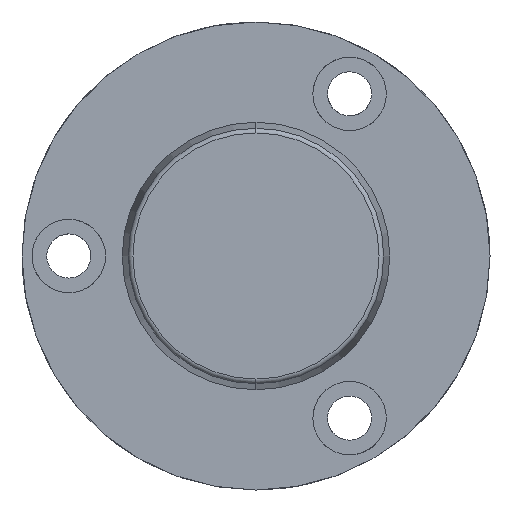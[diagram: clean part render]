
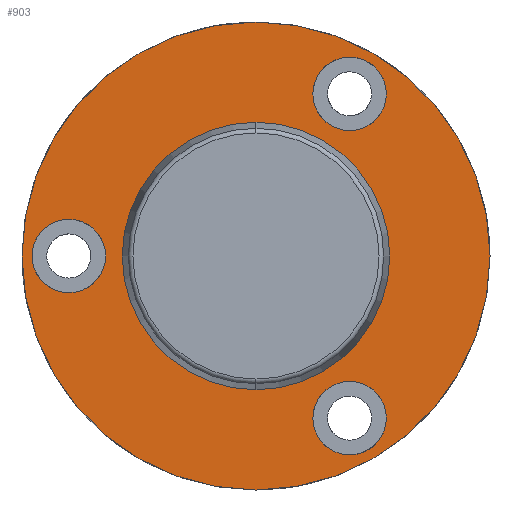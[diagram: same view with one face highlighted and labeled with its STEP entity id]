
A CAD part, left-side view. The second image highlights one B-rep face of the part: STEP entity #903.
In plain terms, the highlighted planar face has unit normal (-1, 0, 0).
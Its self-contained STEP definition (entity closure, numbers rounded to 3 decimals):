
#417=CARTESIAN_POINT('Vertex',(-12.,0.,-35.)) ;
#420=CARTESIAN_POINT('Axis2P3D Location',(-12.,0.,0.)) ;
#424=CARTESIAN_POINT('Vertex',(-12.,35.,0.)) ;
#427=CARTESIAN_POINT('Axis2P3D Location',(-12.,0.,0.)) ;
#431=CARTESIAN_POINT('Vertex',(-12.,0.,35.)) ;
#453=CARTESIAN_POINT('Axis2P3D Location',(-12.,0.,0.)) ;
#457=CARTESIAN_POINT('Vertex',(-12.,-35.,0.)) ;
#460=CARTESIAN_POINT('Axis2P3D Location',(-12.,0.,0.)) ;
#756=CARTESIAN_POINT('Axis2P3D Location',(-12.,18.5,0.)) ;
#767=CARTESIAN_POINT('Axis2P3D Location',(-12.,28.,0.)) ;
#771=CARTESIAN_POINT('Vertex',(-12.,28.,5.5)) ;
#773=CARTESIAN_POINT('Vertex',(-12.,33.5,0.)) ;
#776=CARTESIAN_POINT('Axis2P3D Location',(-12.,28.,0.)) ;
#780=CARTESIAN_POINT('Vertex',(-12.,22.5,0.)) ;
#783=CARTESIAN_POINT('Axis2P3D Location',(-12.,28.,0.)) ;
#787=CARTESIAN_POINT('Vertex',(-12.,28.,-5.5)) ;
#790=CARTESIAN_POINT('Axis2P3D Location',(-12.,28.,0.)) ;
#801=CARTESIAN_POINT('Axis2P3D Location',(-12.,-14.,24.249)) ;
#805=CARTESIAN_POINT('Vertex',(-12.,-8.5,24.249)) ;
#807=CARTESIAN_POINT('Vertex',(-12.,-14.,29.749)) ;
#810=CARTESIAN_POINT('Axis2P3D Location',(-12.,-14.,24.249)) ;
#814=CARTESIAN_POINT('Vertex',(-12.,-19.5,24.249)) ;
#817=CARTESIAN_POINT('Axis2P3D Location',(-12.,-14.,24.249)) ;
#821=CARTESIAN_POINT('Vertex',(-12.,-14.,18.749)) ;
#824=CARTESIAN_POINT('Axis2P3D Location',(-12.,-14.,24.249)) ;
#835=CARTESIAN_POINT('Axis2P3D Location',(-12.,-14.,-24.249)) ;
#839=CARTESIAN_POINT('Vertex',(-12.,-8.5,-24.249)) ;
#841=CARTESIAN_POINT('Vertex',(-12.,-14.,-18.749)) ;
#844=CARTESIAN_POINT('Axis2P3D Location',(-12.,-14.,-24.249)) ;
#848=CARTESIAN_POINT('Vertex',(-12.,-19.5,-24.249)) ;
#851=CARTESIAN_POINT('Axis2P3D Location',(-12.,-14.,-24.249)) ;
#855=CARTESIAN_POINT('Vertex',(-12.,-14.,-29.749)) ;
#858=CARTESIAN_POINT('Axis2P3D Location',(-12.,-14.,-24.249)) ;
#869=CARTESIAN_POINT('Axis2P3D Location',(-12.,0.,0.)) ;
#873=CARTESIAN_POINT('Vertex',(-12.,18.5,0.)) ;
#875=CARTESIAN_POINT('Vertex',(-12.,0.,18.5)) ;
#878=CARTESIAN_POINT('Axis2P3D Location',(-12.,0.,0.)) ;
#882=CARTESIAN_POINT('Vertex',(-12.,-18.5,0.)) ;
#885=CARTESIAN_POINT('Axis2P3D Location',(-12.,0.,0.)) ;
#889=CARTESIAN_POINT('Vertex',(-12.,0.,-18.5)) ;
#892=CARTESIAN_POINT('Axis2P3D Location',(-12.,0.,0.)) ;
#421=DIRECTION('Axis2P3D Direction',(-1.,-0.,-0.)) ;
#428=DIRECTION('Axis2P3D Direction',(-1.,-0.,-0.)) ;
#454=DIRECTION('Axis2P3D Direction',(-1.,-0.,-0.)) ;
#461=DIRECTION('Axis2P3D Direction',(-1.,-0.,-0.)) ;
#757=DIRECTION('Axis2P3D Direction',(1.,0.,-0.)) ;
#758=DIRECTION('Axis2P3D XDirection',(-0.,0.,-1.)) ;
#768=DIRECTION('Axis2P3D Direction',(1.,0.,-0.)) ;
#777=DIRECTION('Axis2P3D Direction',(1.,0.,-0.)) ;
#784=DIRECTION('Axis2P3D Direction',(1.,0.,-0.)) ;
#791=DIRECTION('Axis2P3D Direction',(1.,0.,-0.)) ;
#802=DIRECTION('Axis2P3D Direction',(1.,0.,-0.)) ;
#811=DIRECTION('Axis2P3D Direction',(1.,0.,-0.)) ;
#818=DIRECTION('Axis2P3D Direction',(1.,0.,-0.)) ;
#825=DIRECTION('Axis2P3D Direction',(1.,0.,-0.)) ;
#836=DIRECTION('Axis2P3D Direction',(1.,0.,-0.)) ;
#845=DIRECTION('Axis2P3D Direction',(1.,0.,-0.)) ;
#852=DIRECTION('Axis2P3D Direction',(1.,0.,-0.)) ;
#859=DIRECTION('Axis2P3D Direction',(1.,0.,-0.)) ;
#870=DIRECTION('Axis2P3D Direction',(1.,0.,-0.)) ;
#879=DIRECTION('Axis2P3D Direction',(1.,0.,-0.)) ;
#886=DIRECTION('Axis2P3D Direction',(1.,0.,-0.)) ;
#893=DIRECTION('Axis2P3D Direction',(1.,0.,-0.)) ;
#422=AXIS2_PLACEMENT_3D('Circle Axis2P3D',#420,#421,$) ;
#429=AXIS2_PLACEMENT_3D('Circle Axis2P3D',#427,#428,$) ;
#455=AXIS2_PLACEMENT_3D('Circle Axis2P3D',#453,#454,$) ;
#462=AXIS2_PLACEMENT_3D('Circle Axis2P3D',#460,#461,$) ;
#759=AXIS2_PLACEMENT_3D('Plane Axis2P3D',#756,#757,#758) ;
#769=AXIS2_PLACEMENT_3D('Circle Axis2P3D',#767,#768,$) ;
#778=AXIS2_PLACEMENT_3D('Circle Axis2P3D',#776,#777,$) ;
#785=AXIS2_PLACEMENT_3D('Circle Axis2P3D',#783,#784,$) ;
#792=AXIS2_PLACEMENT_3D('Circle Axis2P3D',#790,#791,$) ;
#803=AXIS2_PLACEMENT_3D('Circle Axis2P3D',#801,#802,$) ;
#812=AXIS2_PLACEMENT_3D('Circle Axis2P3D',#810,#811,$) ;
#819=AXIS2_PLACEMENT_3D('Circle Axis2P3D',#817,#818,$) ;
#826=AXIS2_PLACEMENT_3D('Circle Axis2P3D',#824,#825,$) ;
#837=AXIS2_PLACEMENT_3D('Circle Axis2P3D',#835,#836,$) ;
#846=AXIS2_PLACEMENT_3D('Circle Axis2P3D',#844,#845,$) ;
#853=AXIS2_PLACEMENT_3D('Circle Axis2P3D',#851,#852,$) ;
#860=AXIS2_PLACEMENT_3D('Circle Axis2P3D',#858,#859,$) ;
#871=AXIS2_PLACEMENT_3D('Circle Axis2P3D',#869,#870,$) ;
#880=AXIS2_PLACEMENT_3D('Circle Axis2P3D',#878,#879,$) ;
#887=AXIS2_PLACEMENT_3D('Circle Axis2P3D',#885,#886,$) ;
#894=AXIS2_PLACEMENT_3D('Circle Axis2P3D',#892,#893,$) ;
#762=ORIENTED_EDGE('',*,*,#426,.F.) ;
#763=ORIENTED_EDGE('',*,*,#464,.F.) ;
#764=ORIENTED_EDGE('',*,*,#459,.F.) ;
#765=ORIENTED_EDGE('',*,*,#433,.F.) ;
#796=ORIENTED_EDGE('',*,*,#775,.F.) ;
#797=ORIENTED_EDGE('',*,*,#782,.F.) ;
#798=ORIENTED_EDGE('',*,*,#789,.F.) ;
#799=ORIENTED_EDGE('',*,*,#794,.F.) ;
#830=ORIENTED_EDGE('',*,*,#809,.T.) ;
#831=ORIENTED_EDGE('',*,*,#816,.T.) ;
#832=ORIENTED_EDGE('',*,*,#823,.T.) ;
#833=ORIENTED_EDGE('',*,*,#828,.T.) ;
#864=ORIENTED_EDGE('',*,*,#843,.T.) ;
#865=ORIENTED_EDGE('',*,*,#850,.T.) ;
#866=ORIENTED_EDGE('',*,*,#857,.T.) ;
#867=ORIENTED_EDGE('',*,*,#862,.T.) ;
#898=ORIENTED_EDGE('',*,*,#877,.T.) ;
#899=ORIENTED_EDGE('',*,*,#884,.T.) ;
#900=ORIENTED_EDGE('',*,*,#891,.T.) ;
#901=ORIENTED_EDGE('',*,*,#896,.T.) ;
#800=FACE_BOUND('',#795,.T.) ;
#834=FACE_BOUND('',#829,.T.) ;
#868=FACE_BOUND('',#863,.T.) ;
#902=FACE_BOUND('',#897,.T.) ;
#903=ADVANCED_FACE('721-40x260',(#766,#800,#834,#868,#902),#760,.F.) ;
#423=CIRCLE('generated circle',#422,35.) ;
#430=CIRCLE('generated circle',#429,35.) ;
#456=CIRCLE('generated circle',#455,35.) ;
#463=CIRCLE('generated circle',#462,35.) ;
#770=CIRCLE('generated circle',#769,5.5) ;
#779=CIRCLE('generated circle',#778,5.5) ;
#786=CIRCLE('generated circle',#785,5.5) ;
#793=CIRCLE('generated circle',#792,5.5) ;
#804=CIRCLE('generated circle',#803,5.5) ;
#813=CIRCLE('generated circle',#812,5.5) ;
#820=CIRCLE('generated circle',#819,5.5) ;
#827=CIRCLE('generated circle',#826,5.5) ;
#838=CIRCLE('generated circle',#837,5.5) ;
#847=CIRCLE('generated circle',#846,5.5) ;
#854=CIRCLE('generated circle',#853,5.5) ;
#861=CIRCLE('generated circle',#860,5.5) ;
#872=CIRCLE('generated circle',#871,18.5) ;
#881=CIRCLE('generated circle',#880,18.5) ;
#888=CIRCLE('generated circle',#887,18.5) ;
#895=CIRCLE('generated circle',#894,18.5) ;
#426=EDGE_CURVE('',#418,#425,#423,.F.) ;
#433=EDGE_CURVE('',#425,#432,#430,.F.) ;
#459=EDGE_CURVE('',#432,#458,#456,.F.) ;
#464=EDGE_CURVE('',#458,#418,#463,.F.) ;
#775=EDGE_CURVE('',#772,#774,#770,.F.) ;
#782=EDGE_CURVE('',#781,#772,#779,.F.) ;
#789=EDGE_CURVE('',#788,#781,#786,.F.) ;
#794=EDGE_CURVE('',#774,#788,#793,.F.) ;
#809=EDGE_CURVE('',#806,#808,#804,.T.) ;
#816=EDGE_CURVE('',#808,#815,#813,.T.) ;
#823=EDGE_CURVE('',#815,#822,#820,.T.) ;
#828=EDGE_CURVE('',#822,#806,#827,.T.) ;
#843=EDGE_CURVE('',#840,#842,#838,.T.) ;
#850=EDGE_CURVE('',#842,#849,#847,.T.) ;
#857=EDGE_CURVE('',#849,#856,#854,.T.) ;
#862=EDGE_CURVE('',#856,#840,#861,.T.) ;
#877=EDGE_CURVE('',#874,#876,#872,.T.) ;
#884=EDGE_CURVE('',#876,#883,#881,.T.) ;
#891=EDGE_CURVE('',#883,#890,#888,.T.) ;
#896=EDGE_CURVE('',#890,#874,#895,.T.) ;
#761=EDGE_LOOP('',(#762,#763,#764,#765)) ;
#795=EDGE_LOOP('',(#796,#797,#798,#799)) ;
#829=EDGE_LOOP('',(#830,#831,#832,#833)) ;
#863=EDGE_LOOP('',(#864,#865,#866,#867)) ;
#897=EDGE_LOOP('',(#898,#899,#900,#901)) ;
#766=FACE_OUTER_BOUND('',#761,.T.) ;
#760=PLANE('Plane',#759) ;
#418=VERTEX_POINT('',#417) ;
#425=VERTEX_POINT('',#424) ;
#432=VERTEX_POINT('',#431) ;
#458=VERTEX_POINT('',#457) ;
#772=VERTEX_POINT('',#771) ;
#774=VERTEX_POINT('',#773) ;
#781=VERTEX_POINT('',#780) ;
#788=VERTEX_POINT('',#787) ;
#806=VERTEX_POINT('',#805) ;
#808=VERTEX_POINT('',#807) ;
#815=VERTEX_POINT('',#814) ;
#822=VERTEX_POINT('',#821) ;
#840=VERTEX_POINT('',#839) ;
#842=VERTEX_POINT('',#841) ;
#849=VERTEX_POINT('',#848) ;
#856=VERTEX_POINT('',#855) ;
#874=VERTEX_POINT('',#873) ;
#876=VERTEX_POINT('',#875) ;
#883=VERTEX_POINT('',#882) ;
#890=VERTEX_POINT('',#889) ;
